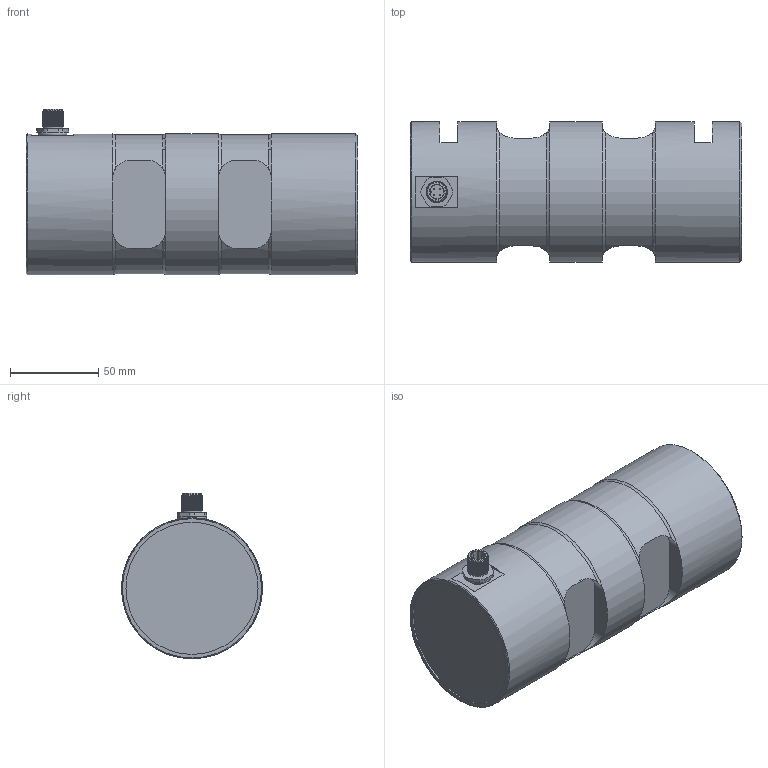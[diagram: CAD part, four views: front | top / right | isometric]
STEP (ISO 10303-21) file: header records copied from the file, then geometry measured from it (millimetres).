
FILE_DESCRIPTION(/* description */ ('Alibre Inc.'),/* implementation_level */ '2;1');
FILE_NAME(/* name */ 'export-2622CB16-6072-4D6D-908D-C22B75FC348E',/* time_stamp */ '2019-04-02T07:46:46+02:00',/* author */ (''),/* organization */ (''),/* preprocessor_version */ 'ST-DEVELOPER v17',/* originating_system */ 'Alibre',/* authorisation */ '');
FILE_SCHEMA (('CONFIG_CONTROL_DESIGN'));
Length unit declared in the file: millimetre
Products named in the file (3): ID_1; ID_2
Bounding box: 188 x 80 x 93.97 mm (x, y, z)
Volume: 941446.6 mm3; surface area: 137629.1 mm2
Topology: 6 solids, 7 shells, 173 faces, 394 edges, 245 vertices
Faces by surface type: plane 75, cylinder 57, bspline 23, torus 10, cone 8
Full cylindrical faces by diameter (mm): 0.5 x8, 8 x2, 10 x2, 11 x1, 11.5 x1, 12 x1, 13 x2, 75 x1, 80 x3
Entity records: 16857 total; most frequent: CARTESIAN_POINT 13437, ORIENTED_EDGE 714, DIRECTION 460, EDGE_CURVE 350, VERTEX_POINT 230, EDGE_LOOP 224, FACE_BOUND 224, AXIS2_PLACEMENT_3D 205
